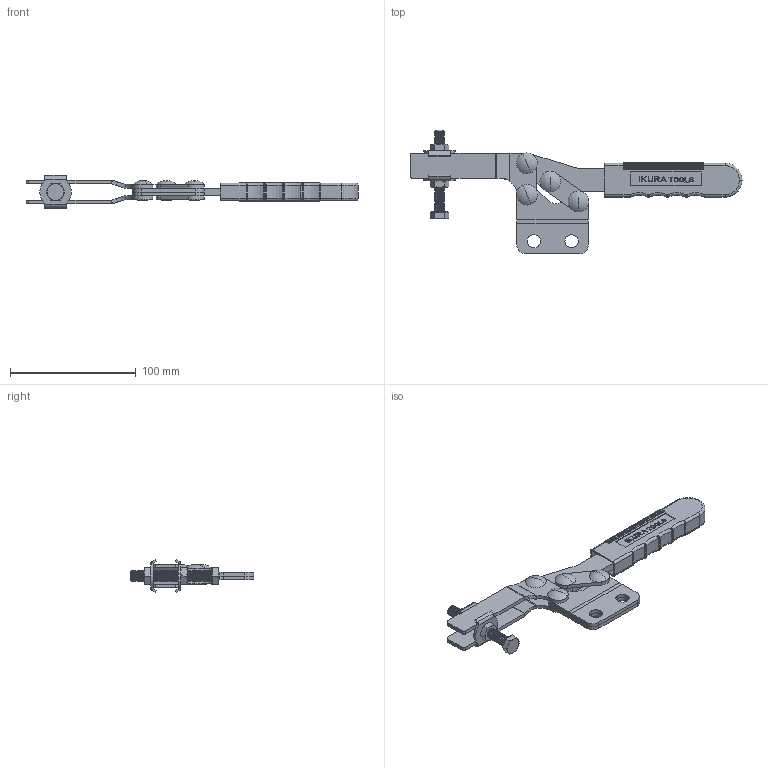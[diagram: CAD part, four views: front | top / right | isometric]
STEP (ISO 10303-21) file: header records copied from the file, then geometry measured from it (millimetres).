
FILE_DESCRIPTION (( 'STEP AP214' ), '1' );
FILE_NAME ('ISK-38S‘å0.STEP', '2015-06-29T10:07:15', ( '' ), ( '' ), 'SwSTEP 2.0', 'SolidWorks 2015', '' );
FILE_SCHEMA (( 'AUTOMOTIVE_DESIGN' ));
Length unit declared in the file: millimetre
Products named in the file (10): Link; Handle; Arm; Base; ISK-38S大0; flat round head rivets gb_GB_RIVETS_ROUND_TYPE83 8X13; hexagon nut_3_jis_JIS B 1181 Hexagon nut - Class 3 Finished M8 --N; continuous thread hexagon head bolt_a_jis_JIS B 1180 Continuous thread hexagon head bolt A M8 x 65 --S; Washer_D8-20; Grip
Assembly tree (15 placements, depth 2):
  ISK-38S大0
    Base
    Arm
    Handle
    Link  x2
    Grip
    Washer_D8-20  x2
    continuous thread hexagon head bolt_a_jis_JIS B 1180 Continuous thread hexagon head bolt A M8 x 65 --S
    hexagon nut_3_jis_JIS B 1181 Hexagon nut - Class 3 Finished M8 --N  x2
    flat round head rivets gb_GB_RIVETS_ROUND_TYPE83 8X13  x4
Bounding box: 264.14 x 98.31 x 26.43 mm (x, y, z)
Volume: 86121.8 mm3; surface area: 56574.3 mm2
Topology: 17 solids, 17 shells, 1796 faces, 4898 edges, 3156 vertices
Faces by surface type: plane 863, cylinder 497, cone 244, bspline 146, sphere 24, torus 22
Entity records: 60772 total; most frequent: CARTESIAN_POINT 16755, ORIENTED_EDGE 9388, DIRECTION 8836, EDGE_CURVE 4694, LINE 3044, VECTOR 3044, VERTEX_POINT 3043, AXIS2_PLACEMENT_3D 2896
